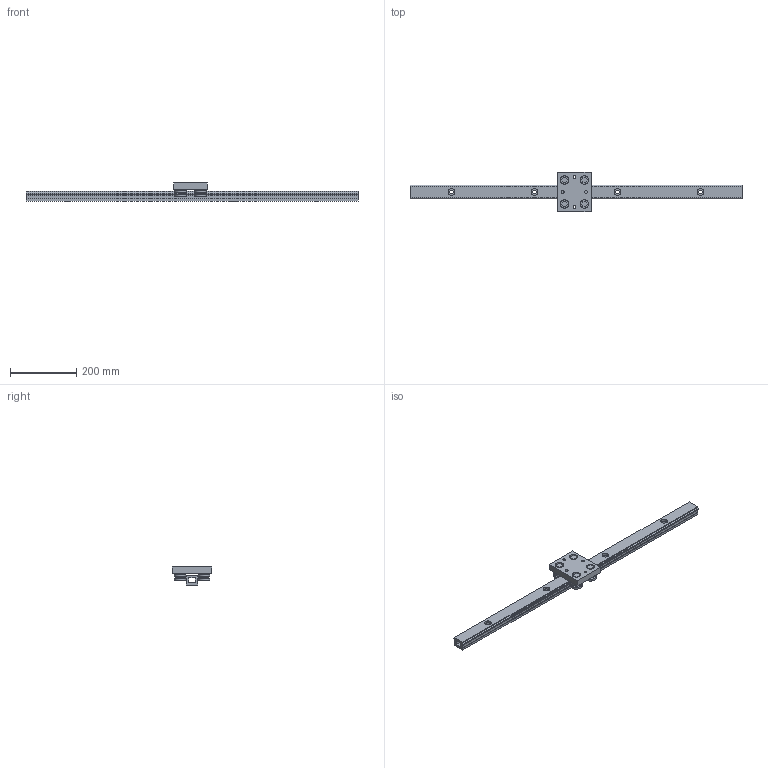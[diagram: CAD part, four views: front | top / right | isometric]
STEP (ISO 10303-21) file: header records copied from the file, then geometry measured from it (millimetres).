
FILE_DESCRIPTION((''),'2;1');
FILE_NAME('D:\製品 (図面)\カタログ用3D\リニアガイド関連\STEP形式\SPDR\SPDR43.stp','2010-06-02T17:10:28',('Tsuchiya'),(''),'Autodesk Inventor 10','Autodesk Inventor 10','');
FILE_SCHEMA(('AUTOMOTIVE_DESIGN { 1 0 10303 214 1 1 1 1 }'));
Length unit declared in the file: millimetre
Products named in the file (3): SPDR43; SPDR431; SPDR432
Assembly tree (2 placements, depth 2):
  SPDR43
    SPDR431
    SPDR432
Bounding box: 1000 x 120 x 54.3 mm (x, y, z)
Volume: 1009789 mm3; surface area: 267825.9 mm2
Topology: 2 solids, 2 shells, 132 faces, 306 edges, 196 vertices
Faces by surface type: plane 75, bspline 22, cylinder 19, cone 16
Full cylindrical faces by diameter (mm): 3.242 x1, 15 x4, 18 x4, 35 x8
Entity records: 3753 total; most frequent: CARTESIAN_POINT 877, DIRECTION 566, ORIENTED_EDGE 496, EDGE_CURVE 248, EDGE_LOOP 226, AXIS2_PLACEMENT_3D 203, VERTEX_POINT 188, VECTOR 160
